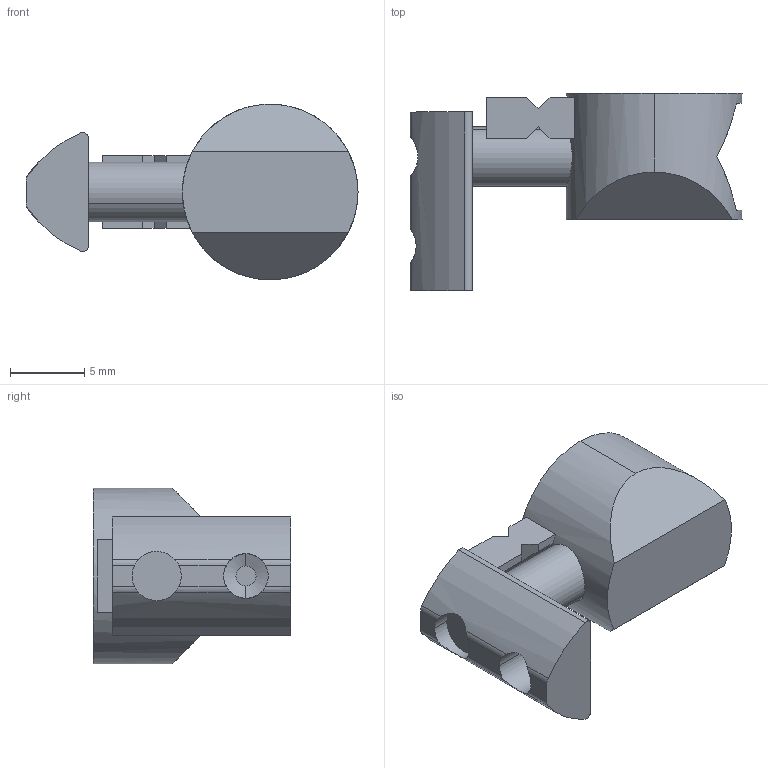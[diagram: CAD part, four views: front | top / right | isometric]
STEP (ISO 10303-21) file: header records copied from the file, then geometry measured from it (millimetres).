
FILE_DESCRIPTION (( 'STEP AP214' ), '1' );
FILE_NAME ('30031_UNISTZ5.STEP', '2016-11-07T15:21:08', ( '' ), ( '' ), 'SwSTEP 2.0', 'SolidWorks 2016', '' );
FILE_SCHEMA (( 'AUTOMOTIVE_DESIGN' ));
Length unit declared in the file: millimetre
Products named in the file (4): Nutenstein 5 M4; Zylinderkopfschraube M4x14; Grundelement5GN-Zn; 30031_UNISTZ5
Assembly tree (3 placements, depth 2):
  30031_UNISTZ5
    Grundelement5GN-Zn
    Zylinderkopfschraube M4x14
    Nutenstein 5 M4
Bounding box: 22.31 x 13.25 x 11.8 mm (x, y, z)
Volume: 1097.7 mm3; surface area: 1494.1 mm2
Topology: 3 solids, 3 shells, 69 faces, 180 edges, 120 vertices
Faces by surface type: plane 43, cylinder 24, cone 2
Entity records: 2807 total; most frequent: CARTESIAN_POINT 566, ORIENTED_EDGE 360, DIRECTION 353, EDGE_CURVE 180, AXIS2_PLACEMENT_3D 125, VERTEX_POINT 120, VECTOR 103, LINE 103
